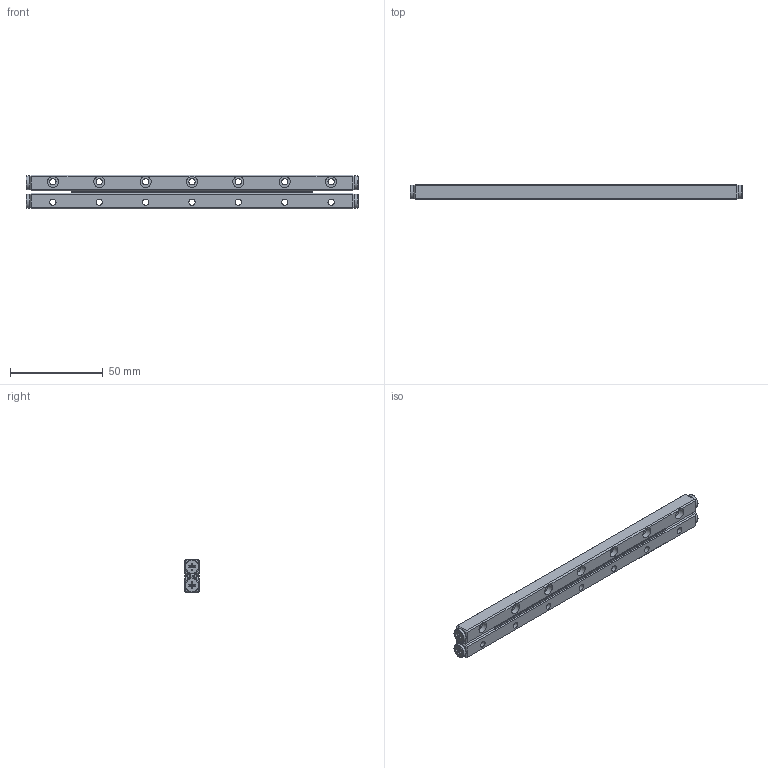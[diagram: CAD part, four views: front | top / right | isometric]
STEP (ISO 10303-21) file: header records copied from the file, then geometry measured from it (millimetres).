
FILE_DESCRIPTION (( 'STEP AP203' ), '1' );
FILE_NAME ('組合件-軌道組-GRV03-0175H-32Z-模糊化軌道組.STEP', '2022-12-05T07:46:20', ( '' ), ( '' ), 'SwSTEP 2.0', 'SolidWorks 2019', '' );
FILE_SCHEMA (( 'CONFIG_CONTROL_DESIGN' ));
Length unit declared in the file: millimetre
Products named in the file (1): 組合件-軌道組-GRV03-0175H-32Z-模糊化軌道組
Bounding box: 179 x 8 x 18 mm (x, y, z)
Volume: 21508.1 mm3; surface area: 16457.2 mm2
Topology: 3 solids, 31 shells, 796 faces, 2160 edges, 1382 vertices
Faces by surface type: plane 502, cylinder 130, cone 84, torus 80
Full cylindrical faces by diameter (mm): 2 x4, 2.55 x28, 3.4 x14, 6 x14, 7.5 x4
Entity records: 23965 total; most frequent: CARTESIAN_POINT 6713, ORIENTED_EDGE 3888, DIRECTION 3172, EDGE_CURVE 1944, VERTEX_POINT 1298, AXIS2_PLACEMENT_3D 1205, EDGE_LOOP 960, FACE_OUTER_BOUND 876
